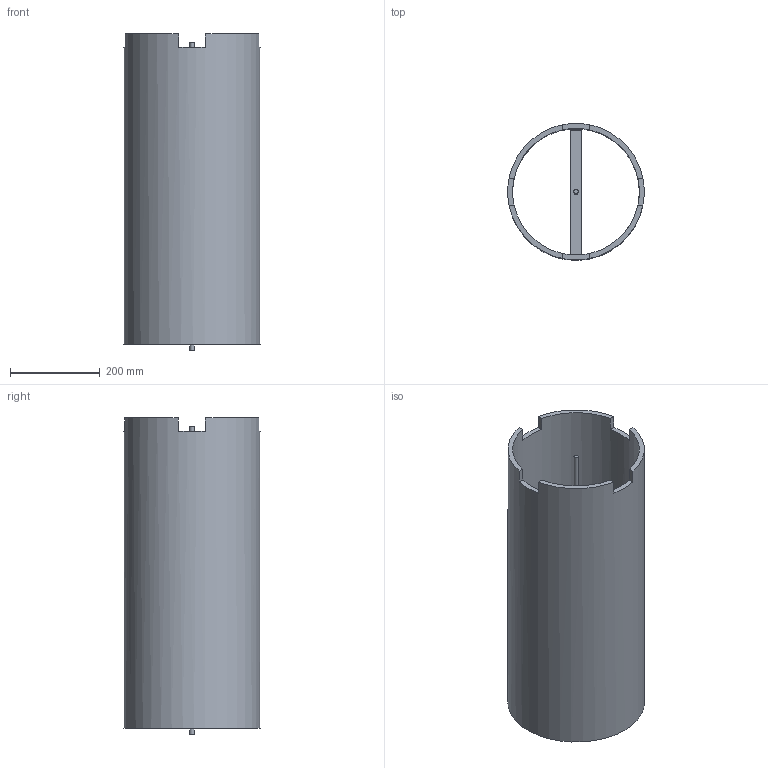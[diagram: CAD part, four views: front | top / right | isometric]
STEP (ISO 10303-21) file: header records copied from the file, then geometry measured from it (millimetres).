
FILE_DESCRIPTION( ( 'STEP AP214' ), '1' );
FILE_NAME( 'D:/Yug/2021/Delta/desk_and_office_organisation/QC/45837.stp', '2021-01-20T06:07:09', ( '' ), ( '' ), ' ', 'PARTsolutions', ' ' );
FILE_SCHEMA( ( 'AUTOMOTIVE_DESIGN { 1 0 10303 214 1 1 1 1 }' ) );
Length unit declared in the file: millimetre
Products named in the file (1): _45837
Bounding box: 304.93 x 304.66 x 706 mm (x, y, z)
Volume: 7026916.1 mm3; surface area: 1327189.4 mm2
Topology: 1 solids, 1 shells, 35 faces, 96 edges, 64 vertices
Faces by surface type: plane 31, cylinder 4
Full cylindrical faces by diameter (mm): 10 x2, 283 x1, 305 x1
Entity records: 1382 total; most frequent: CARTESIAN_POINT 188, DIRECTION 188, ORIENTED_EDGE 180, EDGE_CURVE 90, LINE 64, VECTOR 64, AXIS2_PLACEMENT_3D 62, VERTEX_POINT 62
